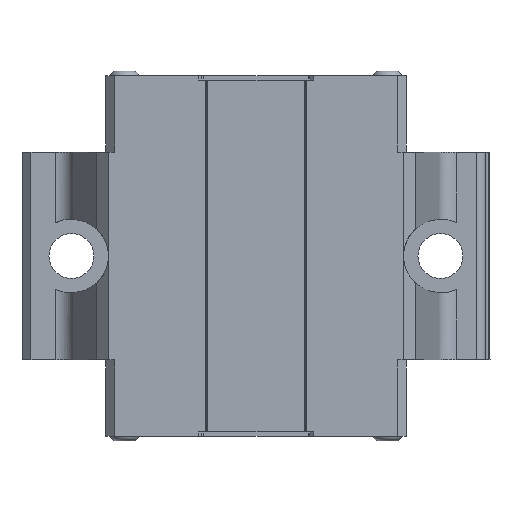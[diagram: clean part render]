
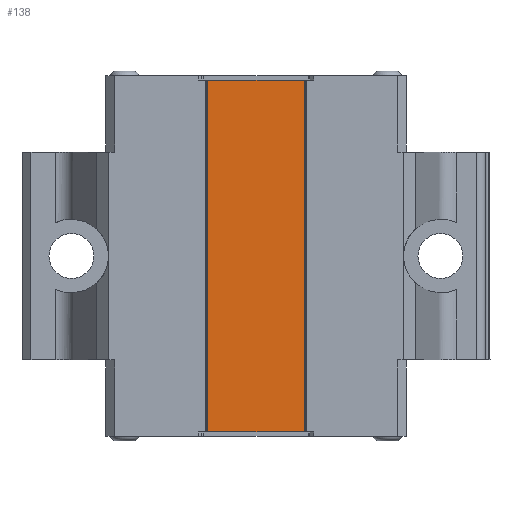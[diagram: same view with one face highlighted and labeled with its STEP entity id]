
A CAD part, front view. The second image highlights one B-rep face of the part: STEP entity #138.
In plain terms, the highlighted planar face has unit normal (0, -1, 0).
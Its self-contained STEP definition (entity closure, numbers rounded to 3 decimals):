
#55 = DIRECTION ( 'NONE',  ( -1., 0., 0. ) ) ;
#138 = ADVANCED_FACE ( 'NONE', ( #5049 ), #8410, .T. ) ;
#556 = AXIS2_PLACEMENT_3D ( 'NONE', #723, #8641, #3634 ) ;
#723 = CARTESIAN_POINT ( 'NONE',  ( 5.831, -11.57, -8. ) ) ;
#1253 = DIRECTION ( 'NONE',  ( 0., 0., -1. ) ) ;
#1292 = ORIENTED_EDGE ( 'NONE', *, *, #3799, .T. ) ;
#1387 = ORIENTED_EDGE ( 'NONE', *, *, #4935, .T. ) ;
#1564 = EDGE_CURVE ( 'NONE', #8972, #4454, #7707, .T. ) ;
#1897 = LINE ( 'NONE', #3355, #4048 ) ;
#1965 = VERTEX_POINT ( 'NONE', #7159 ) ;
#2055 = LINE ( 'NONE', #7254, #7345 ) ;
#3355 = CARTESIAN_POINT ( 'NONE',  ( 5.831, -11.57, -8. ) ) ;
#3365 = CARTESIAN_POINT ( 'NONE',  ( 5.831, -11.57, -8. ) ) ;
#3634 = DIRECTION ( 'NONE',  ( 0., 0., -1. ) ) ;
#3667 = LINE ( 'NONE', #4154, #5574 ) ;
#3799 = EDGE_CURVE ( 'NONE', #5491, #8972, #1897, .T. ) ;
#4048 = VECTOR ( 'NONE', #8396, 1000. ) ;
#4154 = CARTESIAN_POINT ( 'NONE',  ( -5.831, -11.57, -8. ) ) ;
#4262 = ORIENTED_EDGE ( 'NONE', *, *, #1564, .T. ) ;
#4454 = VERTEX_POINT ( 'NONE', #6735 ) ;
#4935 = EDGE_CURVE ( 'NONE', #4454, #1965, #3667, .T. ) ;
#5049 = FACE_OUTER_BOUND ( 'NONE', #7979, .T. ) ;
#5303 = DIRECTION ( 'NONE',  ( -1., 0., 0. ) ) ;
#5491 = VERTEX_POINT ( 'NONE', #3365 ) ;
#5574 = VECTOR ( 'NONE', #1253, 1000. ) ;
#5763 = EDGE_CURVE ( 'NONE', #5491, #1965, #2055, .T. ) ;
#5807 = VECTOR ( 'NONE', #5303, 1000. ) ;
#6665 = CARTESIAN_POINT ( 'NONE',  ( 5.831, -11.57, 31.1 ) ) ;
#6735 = CARTESIAN_POINT ( 'NONE',  ( -5.831, -11.57, 31.1 ) ) ;
#6747 = CARTESIAN_POINT ( 'NONE',  ( 5.831, -11.57, 31.1 ) ) ;
#7159 = CARTESIAN_POINT ( 'NONE',  ( -5.831, -11.57, -8. ) ) ;
#7254 = CARTESIAN_POINT ( 'NONE',  ( 0., -11.57, -8. ) ) ;
#7345 = VECTOR ( 'NONE', #55, 1000. ) ;
#7707 = LINE ( 'NONE', #6747, #5807 ) ;
#7979 = EDGE_LOOP ( 'NONE', ( #4262, #1387, #8544, #1292 ) ) ;
#8396 = DIRECTION ( 'NONE',  ( 0., 0., 1. ) ) ;
#8410 = PLANE ( 'NONE',  #556 ) ;
#8544 = ORIENTED_EDGE ( 'NONE', *, *, #5763, .F. ) ;
#8641 = DIRECTION ( 'NONE',  ( 0., -1., 0. ) ) ;
#8972 = VERTEX_POINT ( 'NONE', #6665 ) ;
